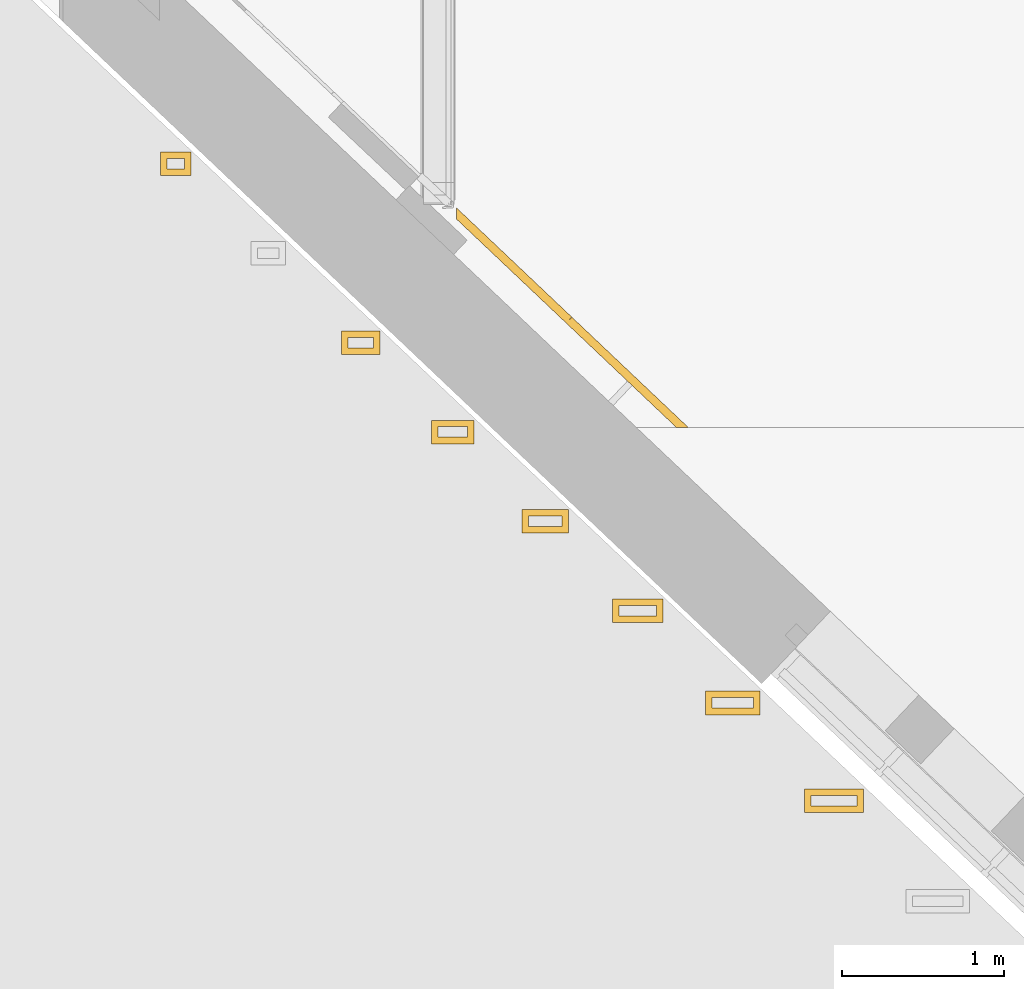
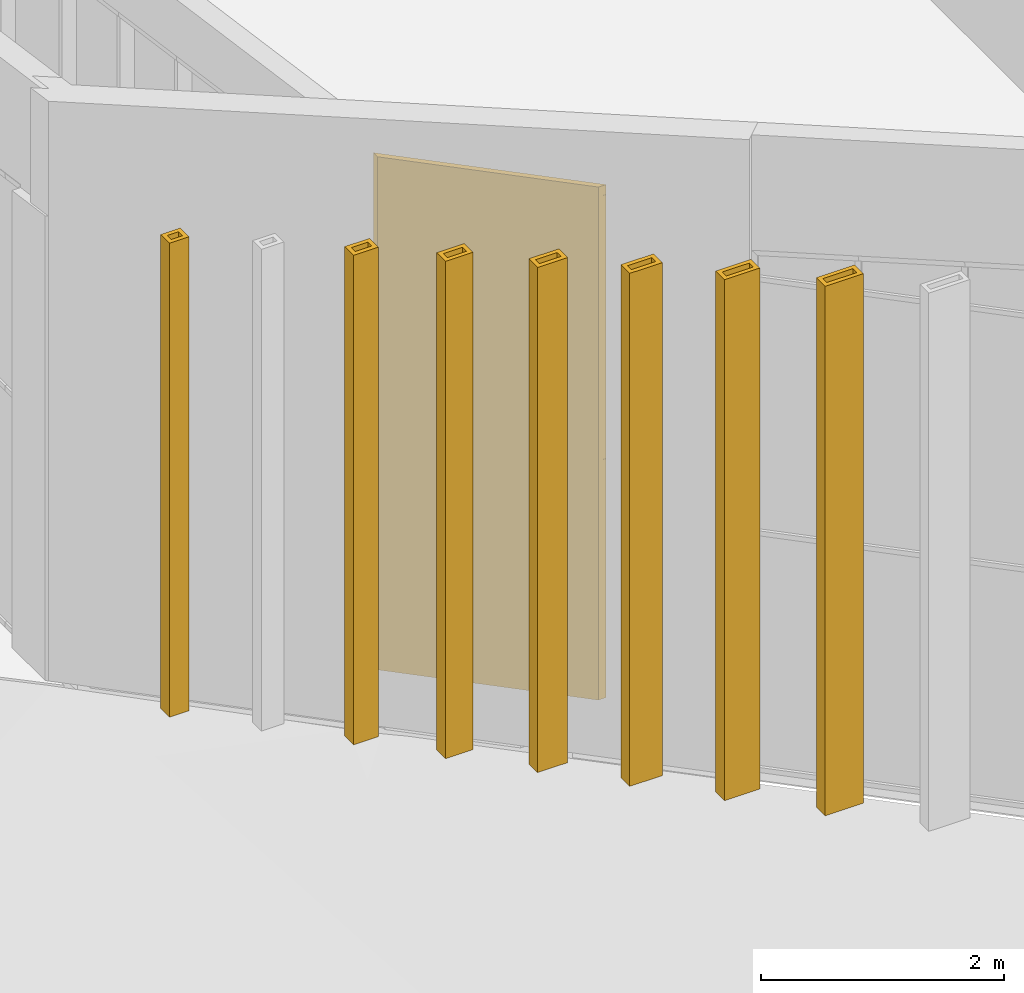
# One storey, part 177 of 246: 8 coverings.
"""IFC2X3 building model written with IfcOpenShell, lengths in millimetres."""

from ifc_helpers import new_model, entity, si_unit, converted_unit, derived_unit, money_unit, direction, frame, origin_with_axes, place, context, subcontext, project, spatial, faceted_brep, material, material_list, type_object, element, save


model = new_model("IFC2X3")

# Units and contexts
model_context = context("Model", 3, precision=0.01, world=origin_with_axes(), true_north=direction((0.0, 1.0)))
body_context = subcontext(model_context, "Body", "Model", "MODEL_VIEW")
ifc_project = project(units=[si_unit("LENGTHUNIT", "METRE", prefix="MILLI"), si_unit("AREAUNIT", "SQUARE_METRE"), si_unit("VOLUMEUNIT", "CUBIC_METRE"), converted_unit("PLANEANGLEUNIT", "DEGREE", entity("IfcPlaneAngleMeasure", 0.0174532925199), si_unit("PLANEANGLEUNIT", "RADIAN"), dimensions=[0, 0, 0, 0, 0, 0, 0]), si_unit("SOLIDANGLEUNIT", "STERADIAN"), money_unit("EUR"), converted_unit("TIMEUNIT", "Year", entity("IfcTimeMeasure", 31556926.0), si_unit("TIMEUNIT", "SECOND"), dimensions=[0, 0, 1, 0, 0, 0, 0]), si_unit("MASSUNIT", "GRAM", prefix="KILO"), si_unit("THERMODYNAMICTEMPERATUREUNIT", "DEGREE_CELSIUS"), si_unit("LUMINOUSINTENSITYUNIT", "LUMEN"), si_unit("ENERGYUNIT", "JOULE", prefix="MEGA"), derived_unit("THERMALCONDUCTANCEUNIT", [(si_unit("POWERUNIT", "WATT"), 1), (si_unit("LENGTHUNIT", "METRE"), -1), (si_unit("THERMODYNAMICTEMPERATUREUNIT", "KELVIN"), -1)]), derived_unit("SPECIFICHEATCAPACITYUNIT", [(si_unit("ENERGYUNIT", "JOULE"), 1), (si_unit("MASSUNIT", "GRAM", prefix="KILO"), -1), (si_unit("THERMODYNAMICTEMPERATUREUNIT", "KELVIN"), -1)]), derived_unit("MASSDENSITYUNIT", [(si_unit("MASSUNIT", "GRAM", prefix="KILO"), 1), (si_unit("VOLUMEUNIT", "CUBIC_METRE"), -1)])], contexts=[model_context])

# Site, building, storey
site_placement = place(None, origin_with_axes())
site = spatial("IfcSite", under=ifc_project, at=site_placement, Name="L.Koidula tn 11b", CompositionType="ELEMENT")
building_placement = place(site_placement, origin_with_axes())
building = spatial("IfcBuilding", under=site, at=building_placement, Name="Rakvere Riigigümnaasium", CompositionType="ELEMENT")
storey_placement = place(building_placement, origin_with_axes())
storey = spatial("IfcBuildingStorey", under=building, at=storey_placement, Name="1.korrus 0,00", CompositionType="ELEMENT", Elevation=0.0)

# Coverings
ifc_material_1 = material(Name="Puit-fassaad")
ifc_material_2 = material(Name="Teras - Konstruktsioon")
ifc_material_list = material_list([ifc_material_1, ifc_material_1, ifc_material_1, ifc_material_1, ifc_material_2])
covering_type_1 = type_object("IfcCoveringType", Name="AR-Lamell-laudisega 363 x 145", PredefinedType="NOTDEFINED")
covering_1_placement = place(storey_placement, frame((18882.1556716, 59044.4173893, 0.0), z_axis=(0.0, 0.0, 1.0), x_axis=(1.0, 0.0, 0.0)))
element("IfcCovering", 1, at=covering_1_placement, inside=storey, type_object=covering_type_1, material=ifc_material_list, Name="L-A8", PredefinedType="NOTDEFINED", context=body_context, shape_type="Brep", body=[
    faceted_brep([(-161.500001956, -52.5193979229, 0.0), (-161.500001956, -72.5007550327, 0.0), (-161.500001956, -72.5007550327, 5315.0), (-161.500001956, -52.5193979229, 5315.0), (131.500000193, -52.5193928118, 0.0), (161.499998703, -52.5007577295, 0.0), (181.500001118, -52.5007577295, 0.0), (181.500001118, -72.5007550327, 0.0), (181.500001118, -72.5007550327, 5315.0), (181.500001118, -52.5007577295, 5315.0), (161.499998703, -52.5007577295, 5315.0), (131.500000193, -52.5193928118, 5315.0)], [[[0, 1, 2, 3]], [[0, 4, 5, 6, 7, 1]], [[1, 7, 8, 2]], [[3, 2, 8, 9, 10, 11]], [[4, 0, 3, 11]], [[5, 4, 11, 10]], [[6, 5, 10, 9]], [[7, 6, 9, 8]]]),
    faceted_brep([(161.499998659, -52.5007562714, 0.0), (181.500001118, -52.5007562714, 0.0), (181.500001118, -52.5007562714, 5315.0), (161.499998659, -52.5007562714, 5315.0), (161.499998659, 52.500750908, 0.0), (161.499998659, 72.5007533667, 0.0), (181.500001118, 72.5007533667, 0.0), (181.500001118, 72.5007533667, 5315.0), (161.499998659, 72.5007533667, 5315.0), (161.499998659, 52.500750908, 5315.0)], [[[0, 1, 2, 3]], [[0, 4, 5, 6, 1]], [[1, 6, 7, 2]], [[3, 2, 7, 8, 9]], [[4, 0, 3, 9]], [[5, 4, 9, 8]], [[6, 5, 8, 7]]]),
    faceted_brep([(-181.499998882, 72.5007501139, 0.0), (-181.499998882, 52.5007531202, 0.0), (-181.499998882, 52.5007531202, 5315.0), (-181.499998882, 72.5007501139, 5315.0), (161.499998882, 72.5007501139, 0.0), (161.499998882, 52.5007531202, 0.0), (161.499998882, 52.5007531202, 5315.0), (161.499998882, 72.5007501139, 5315.0)], [[[0, 1, 2, 3]], [[0, 4, 5, 1]], [[1, 5, 6, 2]], [[3, 2, 6, 7]], [[4, 0, 3, 7]], [[5, 4, 7, 6]]]),
    faceted_brep([(-181.499998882, -72.5007550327, 0.0), (-161.500001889, -72.5007550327, 0.0), (-161.500001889, -72.5007550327, 5315.0), (-181.499998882, -72.5007550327, 5315.0), (-181.499998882, 52.5007531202, 0.0), (-161.781250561, 52.5007531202, 0.0), (-161.781250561, -52.5193982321, 0.0), (-161.500001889, -52.5193982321, 0.0), (-161.500001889, -52.5193982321, 5315.0), (-161.781250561, -52.5193982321, 5315.0), (-161.781250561, 52.5007531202, 5315.0), (-181.499998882, 52.5007531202, 5315.0)], [[[0, 1, 2, 3]], [[0, 4, 5, 6, 7, 1]], [[1, 7, 8, 2]], [[3, 2, 8, 9, 10, 11]], [[4, 0, 3, 11]], [[5, 4, 11, 10]], [[6, 5, 10, 9]], [[7, 6, 9, 8]]]),
    faceted_brep([(-161.781249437, -52.5193964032, 0.0), (131.500000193, -52.5193928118, 0.0), (131.500000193, -52.5193928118, 5315.0), (-161.781249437, -52.5193964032, 5315.0), (-161.781249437, 52.5007550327, 0.0), (161.499998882, 52.5007550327, 0.0), (161.499998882, -52.5193964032, 0.0), (-141.826915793, 32.6903233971, 0.0), (-141.826915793, -32.0297328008, 0.0), (141.115300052, -32.0297328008, 0.0), (141.115300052, 32.6903233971, 0.0), (161.499998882, -52.5193964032, 5315.0), (161.499998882, 52.5007550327, 5315.0), (-161.781249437, 52.5007550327, 5315.0), (-141.826915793, 32.6903233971, 5315.0), (141.115300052, 32.6903233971, 5315.0), (141.115300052, -32.0297328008, 5315.0), (-141.826915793, -32.0297328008, 5315.0)], [[[0, 1, 2, 3]], [[0, 4, 5, 6, 1], [7, 8, 9, 10]], [[1, 6, 11, 2]], [[3, 2, 11, 12, 13], [14, 15, 16, 17]], [[4, 0, 3, 13]], [[5, 4, 13, 12]], [[6, 5, 12, 11]], [[8, 7, 14, 17]], [[9, 8, 17, 16]], [[10, 9, 16, 15]], [[7, 10, 15, 14]]]),
])
covering_type_2 = type_object("IfcCoveringType", Name="AR-Lamell-laudisega 336 x 145", PredefinedType="NOTDEFINED")
covering_2_placement = place(storey_placement, frame((18260.3847263, 59646.2394144, 0.0), z_axis=(0.0, 0.0, 1.0), x_axis=(1.0, 0.0, 0.0)))
element("IfcCovering", 2, at=covering_2_placement, inside=storey, type_object=covering_type_2, material=ifc_material_list, Name="L-A7", PredefinedType="NOTDEFINED", context=body_context, shape_type="Brep", body=[
    faceted_brep([(-148.000001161, -52.5193941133, 0.0), (-148.000001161, -72.5007550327, 0.0), (-148.000001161, -72.5007550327, 5229.0), (-148.000001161, -52.5193941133, 5229.0), (117.999996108, -52.5193941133, 0.0), (147.999998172, -52.5007567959, 0.0), (168.000001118, -52.5007567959, 0.0), (168.000001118, -72.5007550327, 0.0), (168.000001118, -72.5007550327, 5229.0), (168.000001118, -52.5007567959, 5229.0), (147.999998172, -52.5007567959, 5229.0), (117.999996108, -52.5193941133, 5229.0)], [[[0, 1, 2, 3]], [[0, 4, 5, 6, 7, 1]], [[1, 7, 8, 2]], [[3, 2, 8, 9, 10, 11]], [[4, 0, 3, 11]], [[5, 4, 11, 10]], [[6, 5, 10, 9]], [[7, 6, 9, 8]]]),
    faceted_brep([(147.999998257, -52.5007566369, 0.0), (168.000001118, -52.5007566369, 0.0), (168.000001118, -52.5007566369, 5229.0), (147.999998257, -52.5007566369, 5229.0), (147.999998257, 52.5007554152, 0.0), (147.999998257, 72.5007532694, 0.0), (168.000001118, 72.5007532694, 0.0), (168.000001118, 72.5007532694, 5229.0), (147.999998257, 72.5007532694, 5229.0), (147.999998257, 52.5007554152, 5229.0)], [[[0, 1, 2, 3]], [[0, 4, 5, 6, 1]], [[1, 6, 7, 2]], [[3, 2, 7, 8, 9]], [[4, 0, 3, 9]], [[5, 4, 9, 8]], [[6, 5, 8, 7]]]),
    faceted_brep([(-167.999998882, 72.5007557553, 0.0), (-167.999998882, 52.5007530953, 0.0), (-167.999998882, 52.5007530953, 5229.0), (-167.999998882, 72.5007557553, 5229.0), (147.999998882, 72.5007557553, 0.0), (147.999998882, 52.5007578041, 0.0), (147.999998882, 52.5007578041, 5229.0), (147.999998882, 72.5007557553, 5229.0)], [[[0, 1, 2, 3]], [[0, 4, 5, 1]], [[1, 5, 6, 2]], [[3, 2, 6, 7]], [[4, 0, 3, 7]], [[5, 4, 7, 6]]]),
    faceted_brep([(-167.999998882, -72.5007550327, 0.0), (-148.000000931, -72.5007550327, 0.0), (-148.000000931, -72.5007550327, 5229.0), (-167.999998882, -72.5007550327, 5229.0), (-167.999998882, 52.5007530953, 0.0), (-148.281251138, 52.5007530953, 0.0), (-148.281251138, -52.5193943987, 0.0), (-148.000000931, -52.5193943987, 0.0), (-148.000000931, -52.5193943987, 5229.0), (-148.281251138, -52.5193943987, 5229.0), (-148.281251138, 52.5007530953, 5229.0), (-167.999998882, 52.5007530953, 5229.0)], [[[0, 1, 2, 3]], [[0, 4, 5, 6, 7, 1]], [[1, 7, 8, 2]], [[3, 2, 8, 9, 10, 11]], [[4, 0, 3, 11]], [[5, 4, 11, 10]], [[6, 5, 10, 9]], [[7, 6, 9, 8]]]),
    faceted_brep([(-148.281249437, -52.5193964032, 0.0), (117.999996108, -52.5193941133, 0.0), (117.999996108, -52.5193941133, 5229.0), (-148.281249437, -52.5193964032, 5229.0), (-148.281249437, 52.5007550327, 0.0), (147.999998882, 52.5007550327, 0.0), (147.999998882, -52.5193964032, 0.0), (-128.326915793, 32.6903233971, 0.0), (-128.326915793, -32.0297328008, 0.0), (127.615300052, -32.0297328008, 0.0), (127.615300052, 32.6903233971, 0.0), (147.999998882, -52.5193964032, 5229.0), (147.999998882, 52.5007550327, 5229.0), (-148.281249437, 52.5007550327, 5229.0), (-128.326915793, 32.6903233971, 5229.0), (127.615300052, 32.6903233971, 5229.0), (127.615300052, -32.0297328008, 5229.0), (-128.326915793, -32.0297328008, 5229.0)], [[[0, 1, 2, 3]], [[0, 4, 5, 6, 1], [7, 8, 9, 10]], [[1, 6, 11, 2]], [[3, 2, 11, 12, 13], [14, 15, 16, 17]], [[4, 0, 3, 13]], [[5, 4, 13, 12]], [[6, 5, 12, 11]], [[8, 7, 14, 17]], [[9, 8, 17, 16]], [[10, 9, 16, 15]], [[7, 10, 15, 14]]]),
])
covering_type_3 = type_object("IfcCoveringType", Name="AR-Lamell-laudisega 311 x 145", PredefinedType="NOTDEFINED")
covering_3_placement = place(storey_placement, frame((17673.9675367, 60213.6217961, 0.0), z_axis=(0.0, 0.0, 1.0), x_axis=(1.0, 0.0, 0.0)))
element("IfcCovering", 3, at=covering_3_placement, inside=storey, type_object=covering_type_3, material=ifc_material_list, Name="L-A6", PredefinedType="NOTDEFINED", context=body_context, shape_type="Brep", body=[
    faceted_brep([(-135.499996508, -52.5193952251, 0.0), (-135.499996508, -72.5007550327, 0.0), (-135.499996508, -72.5007550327, 5149.0), (-135.499996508, -52.5193952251, 5149.0), (105.500000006, -52.5193908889, 0.0), (135.499999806, -52.5007537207, 0.0), (155.500001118, -52.5007537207, 0.0), (155.499996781, -72.5007550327, 0.0), (155.499996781, -72.5007550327, 5149.0), (155.500001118, -52.5007537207, 5149.0), (135.499999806, -52.5007537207, 5149.0), (105.500000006, -52.5193908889, 5149.0)], [[[0, 1, 2, 3]], [[0, 4, 5, 6, 7, 1]], [[1, 7, 8, 2]], [[3, 2, 8, 9, 10, 11]], [[4, 0, 3, 11]], [[5, 4, 11, 10]], [[6, 5, 10, 9]], [[7, 6, 9, 8]]]),
    faceted_brep([(135.499998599, -52.5007542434, 0.0), (155.500001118, -52.5007542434, 0.0), (155.500001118, -52.5007542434, 5149.0), (135.499998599, -52.5007542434, 5149.0), (135.499998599, 52.500757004, 0.0), (135.499998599, 72.500754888, 0.0), (155.500001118, 72.500754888, 0.0), (155.500001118, 72.500754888, 5149.0), (135.499998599, 72.500754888, 5149.0), (135.499998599, 52.500757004, 5149.0)], [[[0, 1, 2, 3]], [[0, 4, 5, 6, 1]], [[1, 6, 7, 2]], [[3, 2, 7, 8, 9]], [[4, 0, 3, 9]], [[5, 4, 9, 8]], [[6, 5, 8, 7]]]),
    faceted_brep([(-155.499998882, 72.5007538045, 0.0), (-155.499998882, 52.5007568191, 0.0), (-155.499998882, 52.5007568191, 5149.0), (-155.499998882, 72.5007538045, 5149.0), (135.499998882, 72.5007538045, 0.0), (135.499998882, 52.5007568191, 0.0), (135.499998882, 52.5007568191, 5149.0), (135.499998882, 72.5007538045, 5149.0)], [[[0, 1, 2, 3]], [[0, 4, 5, 1]], [[1, 5, 6, 2]], [[3, 2, 6, 7]], [[4, 0, 3, 7]], [[5, 4, 7, 6]]]),
    faceted_brep([(-155.499998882, -72.5007550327, 0.0), (-135.499997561, -72.5007550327, 0.0), (-135.499997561, -72.5007550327, 5149.0), (-155.499998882, -72.5007550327, 5149.0), (-155.499998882, 52.5007568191, 0.0), (-135.781250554, 52.5007568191, 0.0), (-135.781250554, -52.5193952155, 0.0), (-135.499997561, -52.5193952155, 0.0), (-135.499997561, -52.5193952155, 5149.0), (-135.781250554, -52.5193952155, 5149.0), (-135.781250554, 52.5007568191, 5149.0), (-155.499998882, 52.5007568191, 5149.0)], [[[0, 1, 2, 3]], [[0, 4, 5, 6, 7, 1]], [[1, 7, 8, 2]], [[3, 2, 8, 9, 10, 11]], [[4, 0, 3, 11]], [[5, 4, 11, 10]], [[6, 5, 10, 9]], [[7, 6, 9, 8]]]),
    faceted_brep([(-135.781249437, -52.5193964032, 0.0), (105.500000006, -52.5193908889, 0.0), (105.500000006, -52.5193908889, 5149.0), (-135.781249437, -52.5193964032, 5149.0), (-135.781249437, 52.5007550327, 0.0), (135.499998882, 52.5007550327, 0.0), (135.499998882, -52.5193964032, 0.0), (-115.826915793, 32.6903233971, 0.0), (-115.826915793, -32.0297328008, 0.0), (115.115300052, -32.0297328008, 0.0), (115.115300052, 32.6903233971, 0.0), (135.499998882, -52.5193964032, 5149.0), (135.499998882, 52.5007550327, 5149.0), (-135.781249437, 52.5007550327, 5149.0), (-115.826915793, 32.6903233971, 5149.0), (115.115300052, 32.6903233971, 5149.0), (115.115300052, -32.0297328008, 5149.0), (-115.826915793, -32.0297328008, 5149.0)], [[[0, 1, 2, 3]], [[0, 4, 5, 6, 1], [7, 8, 9, 10]], [[1, 6, 11, 2]], [[3, 2, 11, 12, 13], [14, 15, 16, 17]], [[4, 0, 3, 13]], [[5, 4, 13, 12]], [[6, 5, 12, 11]], [[8, 7, 14, 17]], [[9, 8, 17, 16]], [[10, 9, 16, 15]], [[7, 10, 15, 14]]]),
])
covering_type_4 = type_object("IfcCoveringType", Name="AR-Lamell-laudisega 286 x 145", PredefinedType="NOTDEFINED")
covering_4_placement = place(storey_placement, frame((17105.6993534, 60763.8107604, 0.0), z_axis=(0.0, 0.0, 1.0), x_axis=(1.0, 0.0, 0.0)))
element("IfcCovering", 4, at=covering_4_placement, inside=storey, type_object=covering_type_4, material=ifc_material_list, Name="L-A5", PredefinedType="NOTDEFINED", context=body_context, shape_type="Brep", body=[
    faceted_brep([(-122.999999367, -52.5193980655, 0.0), (-122.999999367, -72.5007550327, 0.0), (-122.999999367, -72.5007550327, 5070.0), (-122.999999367, -52.5193980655, 5070.0), (92.9999974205, -52.5193901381, 0.0), (122.999998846, -52.5007567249, 0.0), (143.000001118, -52.5007567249, 0.0), (142.999997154, -72.5007550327, 0.0), (142.999997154, -72.5007550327, 5070.0), (143.000001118, -52.5007567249, 5070.0), (122.999998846, -52.5007567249, 5070.0), (92.9999974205, -52.5193901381, 5070.0)], [[[0, 1, 2, 3]], [[0, 4, 5, 6, 7, 1]], [[1, 7, 8, 2]], [[3, 2, 8, 9, 10, 11]], [[4, 0, 3, 11]], [[5, 4, 11, 10]], [[6, 5, 10, 9]], [[7, 6, 9, 8]]]),
    faceted_brep([(122.999997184, -52.500755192, 0.0), (143.000001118, -52.500755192, 0.0), (143.000001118, -52.500755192, 5070.0), (122.999997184, -52.500755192, 5070.0), (122.999997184, 52.500752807, 0.0), (122.999997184, 72.5007567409, 0.0), (143.000001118, 72.5007567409, 0.0), (143.000001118, 72.5007567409, 5070.0), (122.999997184, 72.5007567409, 5070.0), (122.999997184, 52.500752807, 5070.0)], [[[0, 1, 2, 3]], [[0, 4, 5, 6, 1]], [[1, 6, 7, 2]], [[3, 2, 7, 8, 9]], [[4, 0, 3, 9]], [[5, 4, 9, 8]], [[6, 5, 8, 7]]]),
    faceted_brep([(-142.999998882, 72.5007513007, 0.0), (-142.999998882, 52.5007531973, 0.0), (-142.999998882, 52.5007531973, 5070.0), (-142.999998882, 72.5007513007, 5070.0), (122.999998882, 72.5007513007, 0.0), (122.999998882, 52.5007531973, 0.0), (122.999998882, 52.5007531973, 5070.0), (122.999998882, 72.5007513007, 5070.0)], [[[0, 1, 2, 3]], [[0, 4, 5, 1]], [[1, 5, 6, 2]], [[3, 2, 6, 7]], [[4, 0, 3, 7]], [[5, 4, 7, 6]]]),
    faceted_brep([(-142.999998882, -72.5007550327, 0.0), (-123.000000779, -72.5007550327, 0.0), (-123.000000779, -72.5007550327, 5070.0), (-142.999998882, -72.5007550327, 5070.0), (-142.999998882, 52.5007531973, 0.0), (-123.281249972, 52.5007531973, 0.0), (-123.281249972, -52.5193982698, 0.0), (-123.000000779, -52.5193982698, 0.0), (-123.000000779, -52.5193982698, 5070.0), (-123.281249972, -52.5193982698, 5070.0), (-123.281249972, 52.5007531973, 5070.0), (-142.999998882, 52.5007531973, 5070.0)], [[[0, 1, 2, 3]], [[0, 4, 5, 6, 7, 1]], [[1, 7, 8, 2]], [[3, 2, 8, 9, 10, 11]], [[4, 0, 3, 11]], [[5, 4, 11, 10]], [[6, 5, 10, 9]], [[7, 6, 9, 8]]]),
    faceted_brep([(-123.281249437, -52.5193964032, 0.0), (92.9999974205, -52.5193901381, 0.0), (92.9999974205, -52.5193901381, 5070.0), (-123.281249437, -52.5193964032, 5070.0), (-123.281249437, 52.5007550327, 0.0), (122.999998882, 52.5007550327, 0.0), (122.999998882, -52.5193964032, 0.0), (-103.326915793, 32.6903233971, 0.0), (-103.326915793, -32.0297328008, 0.0), (102.615300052, -32.0297328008, 0.0), (102.615300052, 32.6903233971, 0.0), (122.999998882, -52.5193964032, 5070.0), (122.999998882, 52.5007550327, 5070.0), (-123.281249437, 52.5007550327, 5070.0), (-103.326915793, 32.6903233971, 5070.0), (102.615300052, 32.6903233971, 5070.0), (102.615300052, -32.0297328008, 5070.0), (-103.326915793, -32.0297328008, 5070.0)], [[[0, 1, 2, 3]], [[0, 4, 5, 6, 1], [7, 8, 9, 10]], [[1, 6, 11, 2]], [[3, 2, 11, 12, 13], [14, 15, 16, 17]], [[4, 0, 3, 13]], [[5, 4, 13, 12]], [[6, 5, 12, 11]], [[8, 7, 14, 17]], [[9, 8, 17, 16]], [[10, 9, 16, 15]], [[7, 10, 15, 14]]]),
])
covering_type_5 = type_object("IfcCoveringType", Name="AR-Lamell-laudisega 262 x 145", PredefinedType="NOTDEFINED")
covering_5_placement = place(storey_placement, frame((16536.9311701, 61313.9997247, 0.0), z_axis=(0.0, 0.0, 1.0), x_axis=(1.0, 0.0, 0.0)))
element("IfcCovering", 5, at=covering_5_placement, inside=storey, type_object=covering_type_5, material=ifc_material_list, Name="L-A4", PredefinedType="NOTDEFINED", context=body_context, shape_type="Brep", body=[
    faceted_brep([(-110.999999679, -52.5193977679, 0.0), (-110.999999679, -72.5007550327, 0.0), (-110.999999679, -72.5007550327, 4992.0), (-110.999999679, -52.5193977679, 4992.0), (80.999999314, -52.5193941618, 0.0), (110.99999679, -52.5007579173, 0.0), (131.000001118, -52.5007579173, 0.0), (130.999997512, -72.5007550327, 0.0), (130.999997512, -72.5007550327, 4992.0), (131.000001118, -52.5007579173, 4992.0), (110.99999679, -52.5007579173, 4992.0), (80.999999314, -52.5193941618, 4992.0)], [[[0, 1, 2, 3]], [[0, 4, 5, 6, 7, 1]], [[1, 7, 8, 2]], [[3, 2, 8, 9, 10, 11]], [[4, 0, 3, 11]], [[5, 4, 11, 10]], [[6, 5, 10, 9]], [[7, 6, 9, 8]]]),
    faceted_brep([(110.999997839, -52.5007565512, 0.0), (131.000001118, -52.5007565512, 0.0), (131.000001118, -52.5007565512, 4992.0), (110.999997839, -52.5007565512, 4992.0), (110.999997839, 52.500753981, 0.0), (110.999997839, 72.5007533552, 0.0), (131.000001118, 72.5007533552, 0.0), (131.000001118, 72.5007533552, 4992.0), (110.999997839, 72.5007533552, 4992.0), (110.999997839, 52.500753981, 4992.0)], [[[0, 1, 2, 3]], [[0, 4, 5, 6, 1]], [[1, 6, 7, 2]], [[3, 2, 7, 8, 9]], [[4, 0, 3, 9]], [[5, 4, 9, 8]], [[6, 5, 8, 7]]]),
    faceted_brep([(-130.999998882, 72.5007503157, 0.0), (-130.999998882, 52.5007534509, 0.0), (-130.999998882, 52.5007534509, 4992.0), (-130.999998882, 72.5007503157, 4992.0), (110.999998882, 72.5007503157, 0.0), (110.999998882, 52.5007534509, 0.0), (110.999998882, 52.5007534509, 4992.0), (110.999998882, 72.5007503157, 4992.0)], [[[0, 1, 2, 3]], [[0, 4, 5, 1]], [[1, 5, 6, 2]], [[3, 2, 6, 7]], [[4, 0, 3, 7]], [[5, 4, 7, 6]]]),
    faceted_brep([(-130.999998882, -72.5007550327, 0.0), (-110.999998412, -72.5007550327, 0.0), (-110.999998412, -72.5007550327, 4992.0), (-130.999998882, -72.5007550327, 4992.0), (-130.999998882, 52.5007534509, 0.0), (-111.281247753, 52.5007534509, 0.0), (-111.281247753, -52.5193980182, 0.0), (-110.999998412, -52.5193980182, 0.0), (-110.999998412, -52.5193980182, 4992.0), (-111.281247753, -52.5193980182, 4992.0), (-111.281247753, 52.5007534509, 4992.0), (-130.999998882, 52.5007534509, 4992.0)], [[[0, 1, 2, 3]], [[0, 4, 5, 6, 7, 1]], [[1, 7, 8, 2]], [[3, 2, 8, 9, 10, 11]], [[4, 0, 3, 11]], [[5, 4, 11, 10]], [[6, 5, 10, 9]], [[7, 6, 9, 8]]]),
    faceted_brep([(-111.281249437, -52.5193964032, 0.0), (80.999999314, -52.5193941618, 0.0), (80.999999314, -52.5193941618, 4992.0), (-111.281249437, -52.5193964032, 4992.0), (-111.281249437, 52.5007550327, 0.0), (110.999998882, 52.5007550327, 0.0), (110.999998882, -52.5193964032, 0.0), (-91.3269157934, 32.6903233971, 0.0), (-91.3269157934, -32.0297328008, 0.0), (90.6153000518, -32.0297328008, 0.0), (90.6153000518, 32.6903233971, 0.0), (110.999998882, -52.5193964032, 4992.0), (110.999998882, 52.5007550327, 4992.0), (-111.281249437, 52.5007550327, 4992.0), (-91.3269157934, 32.6903233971, 4992.0), (90.6153000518, 32.6903233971, 4992.0), (90.6153000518, -32.0297328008, 4992.0), (-91.3269157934, -32.0297328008, 4992.0)], [[[0, 1, 2, 3]], [[0, 4, 5, 6, 1], [7, 8, 9, 10]], [[1, 6, 11, 2]], [[3, 2, 11, 12, 13], [14, 15, 16, 17]], [[4, 0, 3, 13]], [[5, 4, 13, 12]], [[6, 5, 12, 11]], [[8, 7, 14, 17]], [[9, 8, 17, 16]], [[10, 9, 16, 15]], [[7, 10, 15, 14]]]),
])
covering_type_6 = type_object("IfcCoveringType", Name="AR-Lamell-laudisega 237 x 145", PredefinedType="NOTDEFINED")
covering_6_placement = place(storey_placement, frame((15968.6629867, 61864.1886891, 0.0), z_axis=(0.0, 0.0, 1.0), x_axis=(1.0, 0.0, 0.0)))
element("IfcCovering", 6, at=covering_6_placement, inside=storey, type_object=covering_type_6, material=ifc_material_list, Name="L-A3", PredefinedType="NOTDEFINED", context=body_context, shape_type="Brep", body=[
    faceted_brep([(-98.4999986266, -52.5193992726, 0.0), (-98.4999986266, -72.5007550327, 0.0), (-98.4999986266, -72.5007550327, 4914.0), (-98.4999986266, -52.5193992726, 4914.0), (68.4999984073, -52.519396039, 0.0), (98.5000006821, -52.5007545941, 0.0), (118.500001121, -52.5007545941, 0.0), (118.499997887, -72.5007550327, 0.0), (118.499997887, -72.5007550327, 4914.0), (118.500001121, -52.5007545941, 4914.0), (98.5000006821, -52.5007545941, 4914.0), (68.4999984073, -52.519396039, 4914.0)], [[[0, 1, 2, 3]], [[0, 4, 5, 6, 7, 1]], [[1, 7, 8, 2]], [[3, 2, 8, 9, 10, 11]], [[4, 0, 3, 11]], [[5, 4, 11, 10]], [[6, 5, 10, 9]], [[7, 6, 9, 8]]]),
    faceted_brep([(98.4999971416, 52.5007551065, 0.0), (98.5000006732, -52.5007534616, 0.0), (98.5000006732, -52.5007534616, 4914.0), (98.4999971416, 52.5007551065, 4914.0), (98.5000006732, 72.500755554, 0.0), (118.500001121, 72.500755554, 0.0), (118.500001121, -52.5007534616, 0.0), (118.500001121, -52.5007534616, 4914.0), (118.500001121, 72.500755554, 4914.0), (98.5000006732, 72.500755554, 4914.0)], [[[0, 1, 2, 3]], [[0, 4, 5, 6, 1]], [[1, 6, 7, 2]], [[3, 2, 7, 8, 9]], [[4, 0, 3, 9]], [[5, 4, 9, 8]], [[6, 5, 8, 7]]]),
    faceted_brep([(-118.499998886, 72.500754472, 0.0), (-118.499998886, 52.5007542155, 0.0), (-118.499998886, 52.5007542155, 4914.0), (-118.499998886, 72.500754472, 4914.0), (98.4999988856, 72.500754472, 0.0), (98.4999988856, 52.5007542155, 0.0), (98.4999988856, 52.5007542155, 4914.0), (98.4999988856, 72.500754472, 4914.0)], [[[0, 1, 2, 3]], [[0, 4, 5, 1]], [[1, 5, 6, 2]], [[3, 2, 6, 7]], [[4, 0, 3, 7]], [[5, 4, 7, 6]]]),
    faceted_brep([(-118.499998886, -72.5007550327, 0.0), (-98.4999986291, -72.5007550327, 0.0), (-98.4999986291, -72.5007550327, 4914.0), (-118.499998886, -72.5007550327, 4914.0), (-118.499998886, 52.5007542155, 0.0), (-98.781250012, 52.5007542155, 0.0), (-98.781250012, -52.519396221, 0.0), (-98.4999986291, -52.519396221, 0.0), (-98.4999986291, -52.519396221, 4914.0), (-98.781250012, -52.519396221, 4914.0), (-98.781250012, 52.5007542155, 4914.0), (-118.499998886, 52.5007542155, 4914.0)], [[[0, 1, 2, 3]], [[0, 4, 5, 6, 7, 1]], [[1, 7, 8, 2]], [[3, 2, 8, 9, 10, 11]], [[4, 0, 3, 11]], [[5, 4, 11, 10]], [[6, 5, 10, 9]], [[7, 6, 9, 8]]]),
    faceted_brep([(-98.7812494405, -52.5193964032, 0.0), (68.4999984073, -52.519396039, 0.0), (68.4999984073, -52.519396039, 4914.0), (-98.7812494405, -52.5193964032, 4914.0), (-98.7812494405, 52.5007550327, 0.0), (98.4999988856, 52.5007550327, 0.0), (98.4999988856, -52.5193964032, 0.0), (-78.8269157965, 32.6903233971, 0.0), (-78.8269157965, -32.0297328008, 0.0), (78.1153000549, -32.0297328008, 0.0), (78.1153000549, 32.6903233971, 0.0), (98.4999988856, -52.5193964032, 4914.0), (98.4999988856, 52.5007550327, 4914.0), (-98.7812494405, 52.5007550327, 4914.0), (-78.8269157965, 32.6903233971, 4914.0), (78.1153000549, 32.6903233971, 4914.0), (78.1153000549, -32.0297328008, 4914.0), (-78.8269157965, -32.0297328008, 4914.0)], [[[0, 1, 2, 3]], [[0, 4, 5, 6, 1], [7, 8, 9, 10]], [[1, 6, 11, 2]], [[3, 2, 11, 12, 13], [14, 15, 16, 17]], [[4, 0, 3, 13]], [[5, 4, 13, 12]], [[6, 5, 12, 11]], [[8, 7, 14, 17]], [[9, 8, 17, 16]], [[10, 9, 16, 15]], [[7, 10, 15, 14]]]),
])
covering_type_7 = type_object("IfcCoveringType", Name="AR-Lamell-laudisega 188 x 145", PredefinedType="NOTDEFINED")
covering_7_placement = place(storey_placement, frame((14831.6266193, 62964.5666179, 0.0), z_axis=(0.0, 0.0, 1.0), x_axis=(1.0, 0.0, 0.0)))
element("IfcCovering", 7, at=covering_7_placement, inside=storey, type_object=covering_type_7, material=ifc_material_list, Name="L-A1", PredefinedType="NOTDEFINED", context=body_context, shape_type="Brep", body=[
    faceted_brep([(-74.000000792, -52.5193995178, 0.0), (-74.000000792, -72.5007550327, 0.0), (-74.000000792, -72.5007550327, 4757.0), (-74.000000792, -52.5193995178, 4757.0), (43.9999997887, -52.519394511, 0.0), (73.9999997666, -52.500754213, 0.0), (94.0000030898, -52.500754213, 0.0), (94.0000005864, -72.5007550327, 0.0), (94.0000005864, -72.5007550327, 4757.0), (94.0000030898, -52.500754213, 4757.0), (73.9999997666, -52.500754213, 4757.0), (43.9999997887, -52.519394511, 4757.0)], [[[0, 1, 2, 3]], [[0, 4, 5, 6, 7, 1]], [[1, 7, 8, 2]], [[3, 2, 8, 9, 10, 11]], [[4, 0, 3, 11]], [[5, 4, 11, 10]], [[6, 5, 10, 9]], [[7, 6, 9, 8]]]),
    faceted_brep([(73.999999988, -52.5007549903, 0.0), (94.0000030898, -52.5007549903, 0.0), (94.0000030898, -52.5007549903, 4757.0), (73.999999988, -52.5007549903, 4757.0), (73.999999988, 52.5007523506, 0.0), (73.999999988, 72.5007554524, 0.0), (94.0000030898, 72.5007554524, 0.0), (94.0000030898, 72.5007554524, 4757.0), (73.999999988, 72.5007554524, 4757.0), (73.999999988, 52.5007523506, 4757.0)], [[[0, 1, 2, 3]], [[0, 4, 5, 6, 1]], [[1, 6, 7, 2]], [[3, 2, 7, 8, 9]], [[4, 0, 3, 9]], [[5, 4, 9, 8]], [[6, 5, 8, 7]]]),
    faceted_brep([(-94.0000008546, 72.5007516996, 0.0), (-94.0000008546, 52.5007561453, 0.0), (-94.0000008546, 52.5007561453, 4757.0), (-94.0000008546, 72.5007516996, 4757.0), (74.0000008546, 72.5007516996, 0.0), (74.0000008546, 52.5007536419, 0.0), (74.0000008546, 52.5007536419, 4757.0), (74.0000008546, 72.5007516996, 4757.0)], [[[0, 1, 2, 3]], [[0, 4, 5, 1]], [[1, 5, 6, 2]], [[3, 2, 6, 7]], [[4, 0, 3, 7]], [[5, 4, 7, 6]]]),
    faceted_brep([(-94.0000008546, -72.5007550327, 0.0), (-74.0000002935, -72.5007550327, 0.0), (-74.0000002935, -72.5007550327, 4757.0), (-94.0000008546, -72.5007550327, 4757.0), (-94.0000008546, 52.5007561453, 0.0), (-74.2812519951, 52.5007561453, 0.0), (-74.2812519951, -52.5193972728, 0.0), (-74.0000002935, -52.5193972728, 0.0), (-74.0000002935, -52.5193972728, 4757.0), (-74.2812519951, -52.5193972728, 4757.0), (-74.2812519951, 52.5007561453, 4757.0), (-94.0000008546, 52.5007561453, 4757.0)], [[[0, 1, 2, 3]], [[0, 4, 5, 6, 7, 1]], [[1, 7, 8, 2]], [[3, 2, 8, 9, 10, 11]], [[4, 0, 3, 11]], [[5, 4, 11, 10]], [[6, 5, 10, 9]], [[7, 6, 9, 8]]]),
    faceted_brep([(-74.2812514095, -52.5193964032, 0.0), (43.9999997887, -52.519394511, 0.0), (43.9999997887, -52.519394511, 4757.0), (-74.2812514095, -52.5193964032, 4757.0), (-74.2812514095, 52.5007550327, 0.0), (74.0000008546, 52.5007550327, 0.0), (74.0000008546, -52.5193964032, 0.0), (-54.3269177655, 32.6903233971, 0.0), (-54.3269177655, -32.0297328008, 0.0), (53.6153020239, -32.0297328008, 0.0), (53.6153020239, 32.6903233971, 0.0), (74.0000008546, -52.5193964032, 4757.0), (74.0000008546, 52.5007550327, 4757.0), (-74.2812514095, 52.5007550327, 4757.0), (-54.3269177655, 32.6903233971, 4757.0), (53.6153020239, 32.6903233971, 4757.0), (53.6153020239, -32.0297328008, 4757.0), (-54.3269177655, -32.0297328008, 4757.0)], [[[0, 1, 2, 3]], [[0, 4, 5, 6, 1], [7, 8, 9, 10]], [[1, 6, 11, 2]], [[3, 2, 11, 12, 13], [14, 15, 16, 17]], [[4, 0, 3, 13]], [[5, 4, 13, 12]], [[6, 5, 12, 11]], [[8, 7, 14, 17]], [[9, 8, 17, 16]], [[10, 9, 16, 15]], [[7, 10, 15, 14]]]),
])
ifc_material_3 = material(Name="MDF")
covering_type_8 = type_object("IfcCoveringType", Name="MDF Polygonal", PredefinedType="CLADDING")
covering_8_placement = place(storey_placement, frame((16559.7878156, 62624.0161888, 0.0), z_axis=(0.0, 0.0, 1.0), x_axis=(0.725948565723, -0.687748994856, 0.0)))
element("IfcCovering", 8, at=covering_8_placement, inside=storey, type_object=covering_type_8, material=ifc_material_3, Name="S-12", PredefinedType="CLADDING", context=body_context, shape_type="Brep", body=[
    faceted_brep([(928.098872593, 50.0200262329, 5051.0), (928.098872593, 50.0200262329, 5150.0), (928.098450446, 30.0200262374, 5150.0), (928.098450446, 30.0200262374, 5051.0), (-47.1151367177, 50.0406104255, 5051.0), (-47.1151367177, 50.0406104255, 5150.0), (1919.09887237, 49.9991088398, 5150.0), (930.098872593, 50.0199840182, 5150.0), (930.098450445, 30.0199840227, 5150.0), (0.0, 0.0, 5150.0), (1866.32266823, 0.0, 5150.0), (-28.2840022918, 30.0402129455, 2399.0), (-28.2840022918, 30.0402129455, 2401.0), (928.098450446, 30.0200262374, 2401.0), (928.098450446, 30.0200262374, 5049.0), (-28.2840022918, 30.0402129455, 5049.0), (-28.2840022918, 30.0402129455, 5051.0), (930.098450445, 30.0199840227, 5051.0), (1897.98848478, 29.9995544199, 5051.0), (1897.98848478, 29.9995544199, 5049.0), (930.098450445, 30.0199840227, 5049.0), (930.098450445, 30.0199840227, 2401.0), (1897.98848478, 29.9995544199, 2401.0), (1897.98848478, 29.9995544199, 2399.0), (930.098450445, 30.0199840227, 2399.0), (930.098450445, 30.0199840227, 0.0), (928.098450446, 30.0200262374, 0.0), (928.098450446, 30.0200262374, 2399.0), (-47.1151367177, 50.0406104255, 5049.0), (-47.1151367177, 50.0406104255, 2401.0), (-47.1151367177, 50.0406104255, 2399.0), (-47.1151367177, 50.0406104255, 0.0), (0.0, 0.0, 0.0), (930.098872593, 50.0199840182, 5051.0), (1919.09887237, 49.9991088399, 5051.0), (1866.32266823, 0.0, 0.0), (1919.09887237, 49.9991088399, 2401.0), (1919.09887237, 49.9991088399, 5049.0), (1919.09887237, 49.9991088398, 0.0), (1919.09887237, 49.9991088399, 2399.0), (928.098872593, 50.020026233, 2401.0), (928.098872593, 50.0200262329, 5049.0), (930.098872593, 50.0199840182, 5049.0), (930.098872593, 50.0199840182, 2401.0), (930.098872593, 50.0199840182, 2399.0), (930.098872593, 50.0199840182, 0.0), (928.098872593, 50.020026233, 0.0), (928.098872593, 50.020026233, 2399.0)], [[[0, 1, 2, 3]], [[4, 5, 1, 0]], [[6, 7, 8, 2, 1, 5, 9, 10]], [[11, 12, 13, 14, 15, 16, 3, 2, 8, 17, 18, 19, 20, 21, 22, 23, 24, 25, 26, 27]], [[0, 3, 16, 4]], [[5, 4, 16, 15, 28, 29, 12, 11, 30, 31, 32, 9]], [[33, 7, 6, 34]], [[17, 8, 7, 33]], [[9, 32, 35, 10]], [[22, 36, 37, 19, 18, 34, 6, 10, 35, 38, 39, 23]], [[40, 13, 12, 29]], [[14, 13, 40, 41]], [[41, 28, 15, 14]], [[34, 18, 17, 33]], [[37, 42, 20, 19]], [[42, 43, 21, 20]], [[36, 22, 21, 43]], [[39, 44, 24, 23]], [[44, 45, 25, 24]], [[31, 46, 26, 25, 45, 38, 35, 32]], [[27, 26, 46, 47]], [[47, 30, 11, 27]], [[41, 40, 29, 28]], [[47, 46, 31, 30]], [[37, 36, 43, 42]], [[39, 38, 45, 44]]]),
])

save(model, "model.ifc")
